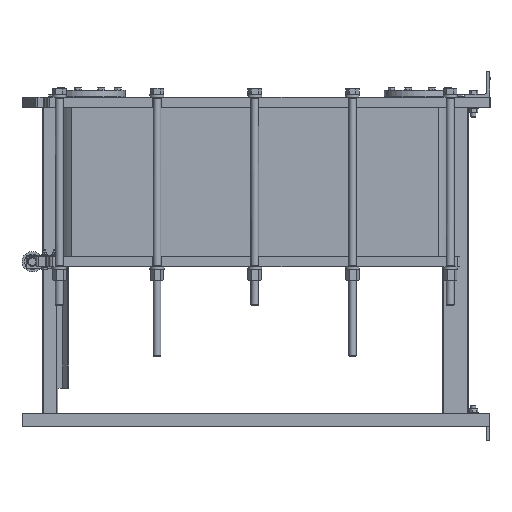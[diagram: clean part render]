
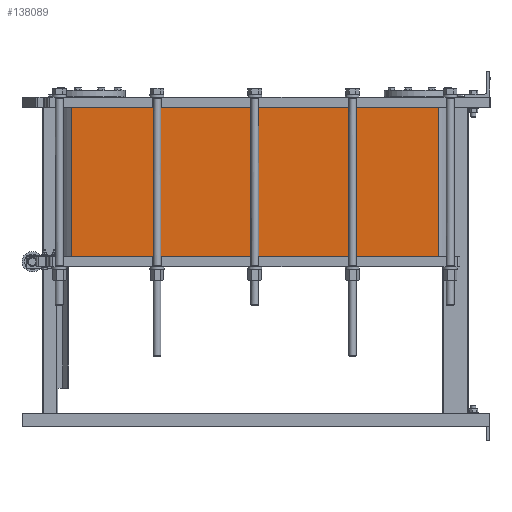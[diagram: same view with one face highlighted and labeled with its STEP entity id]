
A CAD part, left-side view. The second image highlights one B-rep face of the part: STEP entity #138089.
In plain terms, the highlighted planar face has unit normal (-1, 0, 0).
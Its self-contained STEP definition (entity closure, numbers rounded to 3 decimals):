
#6239 = LINE ( 'NONE', #95217, #93263 ) ;
#8340 = CARTESIAN_POINT ( 'NONE',  ( 56., 202.28, -140. ) ) ;
#8648 = DIRECTION ( 'NONE',  ( 0., 1., 0. ) ) ;
#8860 = LINE ( 'NONE', #59862, #17725 ) ;
#16788 = CARTESIAN_POINT ( 'NONE',  ( 56., 1641.72, -140. ) ) ;
#17725 = VECTOR ( 'NONE', #49399, 1000. ) ;
#28643 = EDGE_LOOP ( 'NONE', ( #124327, #65139, #94839, #124967 ) ) ;
#33366 = DIRECTION ( 'NONE',  ( 0., -1., 0. ) ) ;
#38225 = DIRECTION ( 'NONE',  ( 0., 1., 0. ) ) ;
#44906 = EDGE_CURVE ( 'NONE', #69020, #50689, #8860, .T. ) ;
#49028 = CARTESIAN_POINT ( 'NONE',  ( 56., 1641.72, -725. ) ) ;
#49399 = DIRECTION ( 'NONE',  ( 0., 0., -1. ) ) ;
#49608 = VECTOR ( 'NONE', #33366, 1000. ) ;
#50689 = VERTEX_POINT ( 'NONE', #49028 ) ;
#52312 = CARTESIAN_POINT ( 'NONE',  ( 56., 202.28, -140. ) ) ;
#55294 = AXIS2_PLACEMENT_3D ( 'NONE', #52312, #98422, #8648 ) ;
#57859 = EDGE_CURVE ( 'NONE', #99585, #50689, #6239, .T. ) ;
#59862 = CARTESIAN_POINT ( 'NONE',  ( 56., 1641.72, -140. ) ) ;
#60313 = LINE ( 'NONE', #68463, #49608 ) ;
#65139 = ORIENTED_EDGE ( 'NONE', *, *, #44906, .T. ) ;
#65868 = DIRECTION ( 'NONE',  ( 0., 0., -1. ) ) ;
#68463 = CARTESIAN_POINT ( 'NONE',  ( 56., 922., -140. ) ) ;
#69020 = VERTEX_POINT ( 'NONE', #16788 ) ;
#70773 = CARTESIAN_POINT ( 'NONE',  ( 56., 202.28, -725. ) ) ;
#71804 = FACE_OUTER_BOUND ( 'NONE', #28643, .T. ) ;
#75320 = EDGE_CURVE ( 'NONE', #112107, #99585, #136556, .T. ) ;
#76216 = VECTOR ( 'NONE', #65868, 1000. ) ;
#93263 = VECTOR ( 'NONE', #38225, 1000. ) ;
#94839 = ORIENTED_EDGE ( 'NONE', *, *, #57859, .F. ) ;
#95217 = CARTESIAN_POINT ( 'NONE',  ( 56., 922., -725. ) ) ;
#97511 = EDGE_CURVE ( 'NONE', #69020, #112107, #60313, .T. ) ;
#98422 = DIRECTION ( 'NONE',  ( -1., 0., 0. ) ) ;
#99585 = VERTEX_POINT ( 'NONE', #70773 ) ;
#112107 = VERTEX_POINT ( 'NONE', #137682 ) ;
#117896 = PLANE ( 'NONE',  #55294 ) ;
#124327 = ORIENTED_EDGE ( 'NONE', *, *, #97511, .F. ) ;
#124967 = ORIENTED_EDGE ( 'NONE', *, *, #75320, .F. ) ;
#136556 = LINE ( 'NONE', #8340, #76216 ) ;
#137682 = CARTESIAN_POINT ( 'NONE',  ( 56., 202.28, -140. ) ) ;
#138089 = ADVANCED_FACE ( 'NONE', ( #71804 ), #117896, .T. ) ;
